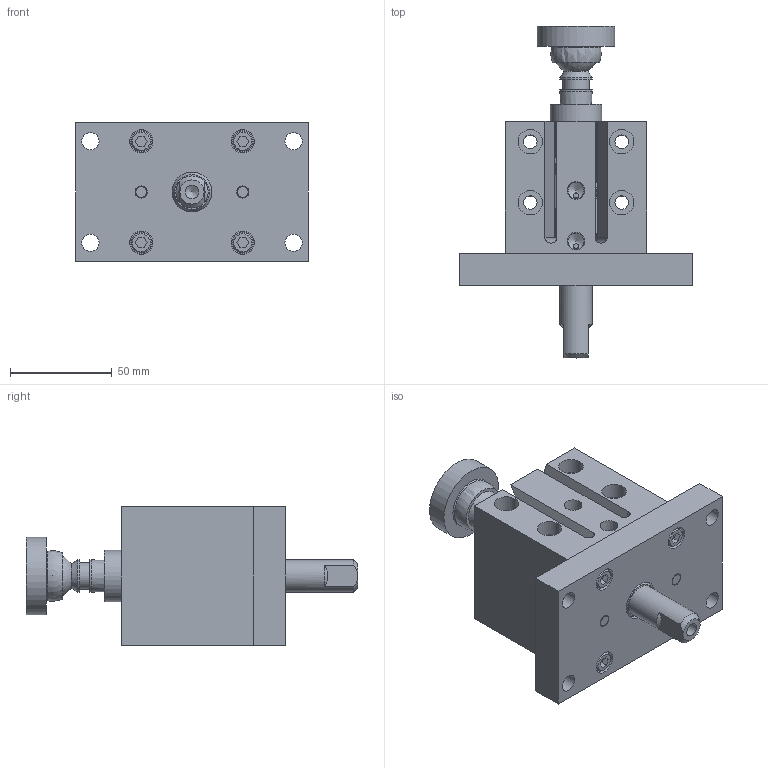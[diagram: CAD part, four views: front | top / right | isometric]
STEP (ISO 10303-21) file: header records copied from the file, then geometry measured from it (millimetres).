
FILE_DESCRIPTION(/* description */ ('PNEUMATIC PASS THRU GROUND UNIT'),/* implementation_level */ '2;1');
FILE_NAME(/* name */ 'C:\Vault Workspace\CAD\Welker\Cylinders\GBP\GBPBG.stp',/* time_stamp */ '2021-06-24T14:01:45-04:00',/* author */ ('KPL'),/* organization */ (''),/* preprocessor_version */ 'ST-DEVELOPER v18.1',/* originating_system */ 'Autodesk Inventor 2020',/* authorisation */ '');
FILE_SCHEMA (('AUTOMOTIVE_DESIGN { 1 0 10303 214 3 1 1 }'));
Products named in the file (11): GBPL01; 6mmX25 ; M6X1-20 SHCS; NL6; L3 Sensor 1; SN-1512; GBPE01; GBPE02; GBPE03; AN-09U2145; AN-03U2145
Assembly tree (18 placements, depth 2):
  GBPL01
    6mmX25   x2
    M6X1-20 SHCS  x4
    NL6  x4
    L3 Sensor 1  x2
    SN-1512
    GBPE01
    GBPE02
    GBPE03
    AN-09U2145
    AN-03U2145
Bounding box: 114.3 x 163.5 x 68 mm (x, y, z)
Volume: 398757.3 mm3; surface area: 95905.7 mm2
Topology: 18 solids, 18 shells, 521 faces, 1365 edges, 920 vertices
Faces by surface type: plane 326, cylinder 143, cone 40, torus 8, sphere 4
Full cylindrical faces by diameter (mm): 2.5 x2, 2.9 x2, 4.917 x4, 6 x10, 6.5 x8, 6.647 x5, 7.95 x2, 8 x2, 8.5 x4, 10 x4, 10.8 x4, 11.5 x4, 12 x4, 13 x1, 13.335 x1, 14.935 x2, 15.875 x6, 15.951 x2, 16.129 x1, 19.609 x1, 22.022 x1, 22.225 x1, 22.479 x2, 25.4 x1, 26.162 x1, 28.55 x1, 29.159 x1, 31.75 x3, 32.258 x1, 32.309 x1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
Entity records: 11468 total; most frequent: CARTESIAN_POINT 2062, DIRECTION 1976, ORIENTED_EDGE 1750, EDGE_CURVE 875, AXIS2_PLACEMENT_3D 755, VERTEX_POINT 612, LINE 466, VECTOR 466
